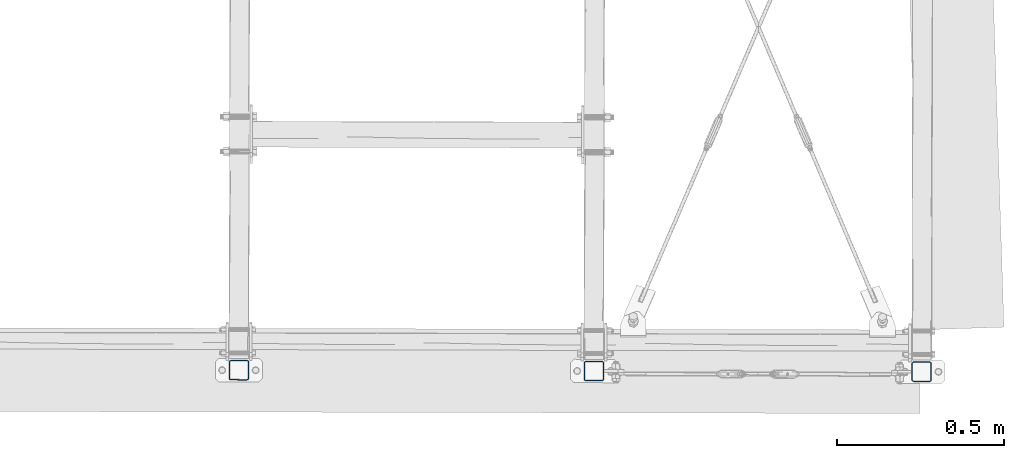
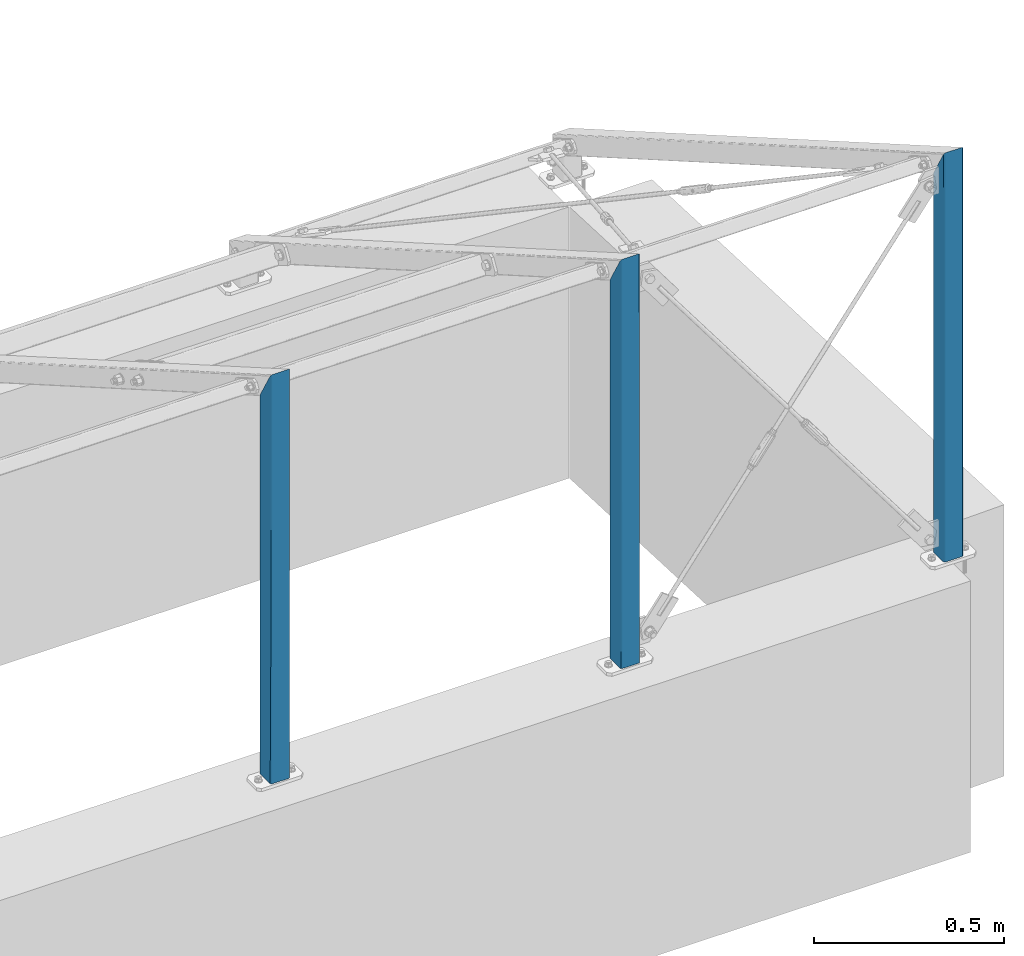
# One storey, part 3 of 288: 3 columns.
"""IFC2X3 building model written with IfcOpenShell, lengths in millimetres."""

from ifc_helpers import new_model, entity, si_unit, converted_unit, frame, origin, origin_with_axes, origin_2d, place, context, project, spatial, hollow_rectangle, extrude, clip, halfspace, material, element, save


model = new_model("IFC2X3")

# Units and contexts
model_context = context("Model", 3, precision=1e-09, world=origin_with_axes())
ifc_project = project(units=[si_unit("LENGTHUNIT", "METRE", prefix="MILLI"), si_unit("AREAUNIT", "SQUARE_METRE"), si_unit("VOLUMEUNIT", "CUBIC_METRE"), converted_unit("PLANEANGLEUNIT", "DEGREE", entity("IfcPlaneAngleMeasure", 0.01745329), si_unit("PLANEANGLEUNIT", "RADIAN"), dimensions=[0, 0, 0, 0, 0, 0, 0])], contexts=[model_context])

# Site, building, storey
site_placement = place(None, origin_with_axes())
site = spatial("IfcSite", under=ifc_project, at=site_placement, Name="Remont ?wietlik?w nad MC w NCPP w Opolu", CompositionType="ELEMENT")
building_placement = place(site_placement, origin_with_axes())
building = spatial("IfcBuilding", under=site, at=building_placement, Name="Konstrukcja 1", CompositionType="ELEMENT")
storey_placement = place(building_placement, origin_with_axes())
storey = spatial("IfcBuildingStorey", under=building, at=storey_placement, Name="Default Storey", CompositionType="ELEMENT", Elevation=0.0)

# Columns
ifc_material = material(Name="S235")
column_1_placement = place(None, frame((9055.18451647, -145.414445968, -42.426406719), z_axis=(0.0, 0.0, -1.0), x_axis=(0.002261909, 0.999997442, 0.0)))
element("IfcColumn", 1, at=column_1_placement, inside=storey, material=ifc_material, Name="Horizontal_Beam", ObjectType="Horizontal_Beam", context=model_context, shape_type="Clipping", body=[
    clip(clip(extrude(hollow_rectangle(XDim=60.0, YDim=60.0, WallThickness=3.0, InnerFilletRadius=3.0, OuterFilletRadius=6.0, at=origin_2d()), origin(), (0.0, 0.0, -1.0), 1397.279189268), halfspace(frame((581.160095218, -9055.490155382, -305.829910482), z_axis=(-0.866025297, -2.11e-07, 0.500000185), x_axis=(-2.44e-07, 1.0, 0.0)), True)), halfspace(frame((124.932068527, -9055.490266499, -52.427406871), z_axis=(0.0, 0.0, -1.0), x_axis=(0.002261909, 0.999997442, 0.0)), True)),
])
column_2_placement = place(None, frame((10115.181804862, -147.812069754, -42.426406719), z_axis=(0.0, 0.0, -1.0), x_axis=(0.002261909, 0.999997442, 0.0)))
element("IfcColumn", 2, at=column_2_placement, inside=storey, material=ifc_material, Name="Horizontal_Beam", ObjectType="Horizontal_Beam", context=model_context, shape_type="Clipping", body=[
    clip(clip(extrude(hollow_rectangle(XDim=60.0, YDim=60.0, WallThickness=3.0, InnerFilletRadius=3.0, OuterFilletRadius=6.0, at=origin_2d()), origin(), (0.0, 0.0, -1.0), 1397.279189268), halfspace(frame((581.160288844, -10115.490155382, -305.830022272), z_axis=(-0.866025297, -2.11e-07, 0.500000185), x_axis=(-2.44e-07, 1.0, 0.0)), True)), halfspace(frame((124.932068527, -10115.490266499, -52.427406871), z_axis=(0.0, 0.0, -1.0), x_axis=(0.002261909, 0.999997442, 0.0)), True)),
])
column_3_placement = place(None, frame((11094.093614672, -150.010989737, -42.426406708), z_axis=(0.0, 0.0, -1.0), x_axis=(0.002261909, 0.999997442, 0.0)))
element("IfcColumn", 3, at=column_3_placement, inside=storey, material=ifc_material, Name="Horizontal_Beam", ObjectType="Horizontal_Beam", context=model_context, shape_type="Clipping", body=[
    clip(clip(extrude(hollow_rectangle(XDim=60.0, YDim=60.0, WallThickness=3.0, InnerFilletRadius=3.0, OuterFilletRadius=6.0, at=origin_2d()), origin(), (0.0, 0.0, -1.0), 1397.279189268), halfspace(frame((581.156643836, -11094.404434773, -305.836748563), z_axis=(-0.866025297, -2.11e-07, 0.500000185), x_axis=(-2.44e-07, 1.0, 0.0)), True)), halfspace(frame((124.916773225, -11094.404545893, -52.427406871), z_axis=(0.0, 0.0, -1.0), x_axis=(0.002261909, 0.999997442, 0.0)), True)),
])

save(model, "model.ifc")
